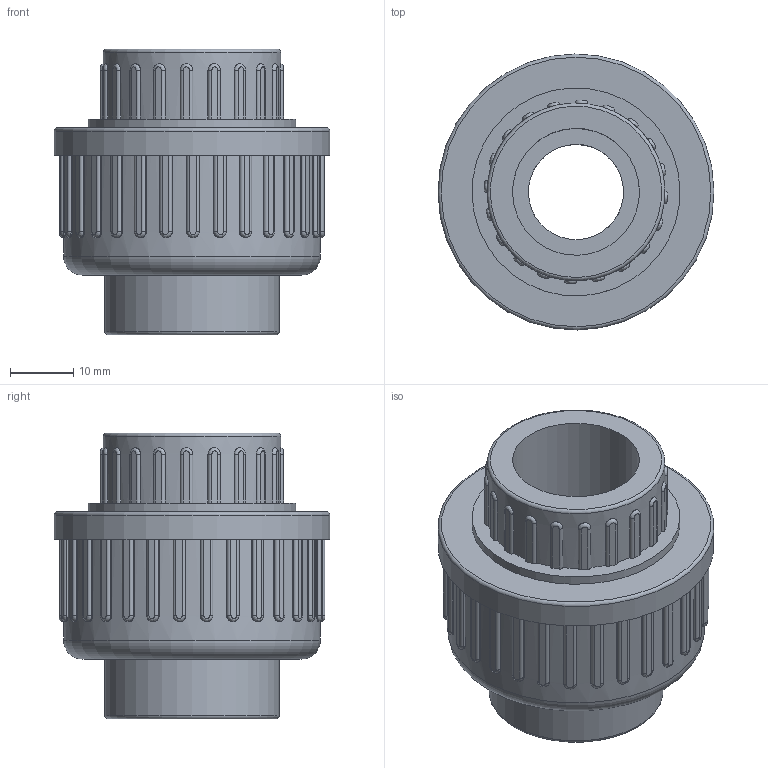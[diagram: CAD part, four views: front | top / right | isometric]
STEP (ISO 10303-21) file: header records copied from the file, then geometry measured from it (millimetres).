
FILE_DESCRIPTION(/* description */ (''),/* implementation_level */ '2;1');
FILE_NAME(/* name */ 'C:\Users\POLYPIPE\Desktop\DATASET INVENTOR\LIBRERIA EFFAST\3D_RACCORDI\RDR\3D_RDRBOD\3D_RDRBOD0200.stp',/* time_stamp */ '2018-01-22T10:23:46+01:00',/* author */ ('POLYPIPE'),/* organization */ (''),/* preprocessor_version */ 'ST-DEVELOPER v16.1',/* originating_system */ 'Autodesk Inventor 2016',/* authorisation */ '');
FILE_SCHEMA (('CONFIG_CONTROL_DESIGN'));
Length unit declared in the file: centimetre
Products named in the file (1): 3D_RDRBOD
Bounding box: 43.5 x 43.5 x 45 mm (x, y, z)
Volume: 32045.1 mm3; surface area: 12190.3 mm2
Topology: 1 solids, 2 shells, 316 faces, 883 edges, 578 vertices
Faces by surface type: cylinder 141, plane 121, bspline 50, torus 4
Full cylindrical faces by diameter (mm): 15 x1, 20 x2, 27.5 x1, 27.9 x1, 28 x1, 30 x1, 30.7 x1, 32.8 x1, 40.5 x1, 43.5 x1
Entity records: 11807 total; most frequent: CARTESIAN_POINT 3435, ORIENTED_EDGE 1728, DIRECTION 1672, EDGE_CURVE 864, AXIS2_PLACEMENT_3D 621, VERTEX_POINT 574, LINE 430, VECTOR 430
